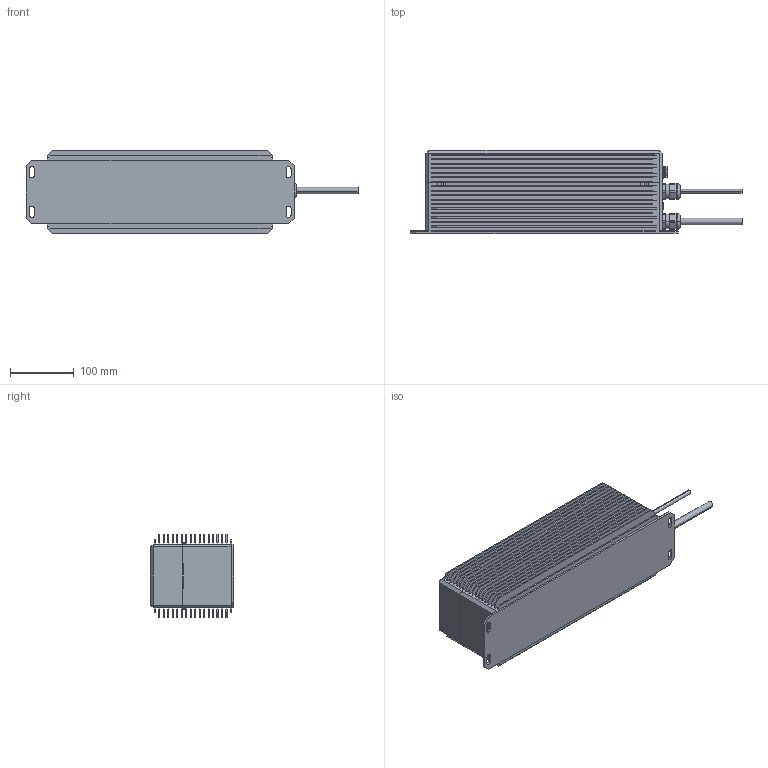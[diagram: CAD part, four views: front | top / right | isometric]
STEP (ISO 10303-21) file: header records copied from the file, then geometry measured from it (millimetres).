
FILE_DESCRIPTION (( 'STEP AP214' ), '1' );
FILE_NAME ('UPSI-2406IP-38AC.STEP', '2022-11-29T15:09:32', ( '' ), ( '' ), 'SwSTEP 2.0', 'SolidWorks 2022', '' );
FILE_SCHEMA (( 'AUTOMOTIVE_DESIGN' ));
Length unit declared in the file: millimetre
Products named in the file (1): UPSI-2406IP-38AC
Bounding box: 519.69 x 130.2 x 130 mm (x, y, z)
Volume: 5198415.2 mm3; surface area: 660917.5 mm2
Topology: 6 solids, 13 shells, 1229 faces, 3032 edges, 1889 vertices
Faces by surface type: plane 665, cylinder 432, cone 104, torus 22, bspline 6
Entity records: 53306 total; most frequent: CARTESIAN_POINT 10015, DIRECTION 6550, ORIENTED_EDGE 6048, EDGE_CURVE 3024, AXIS2_PLACEMENT_3D 2440, VERTEX_POINT 1889, VECTOR 1670, LINE 1670
